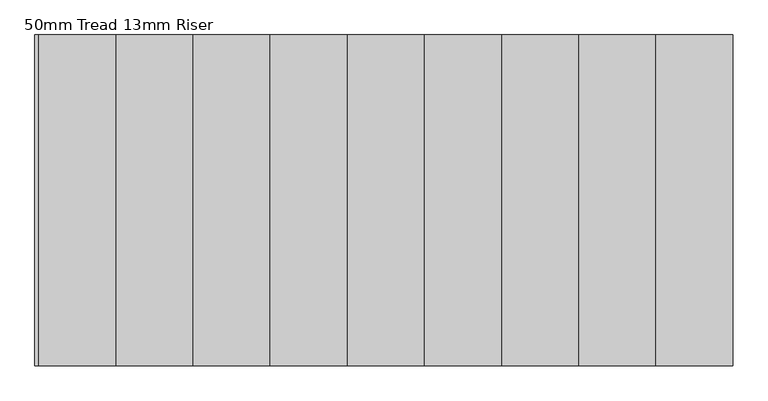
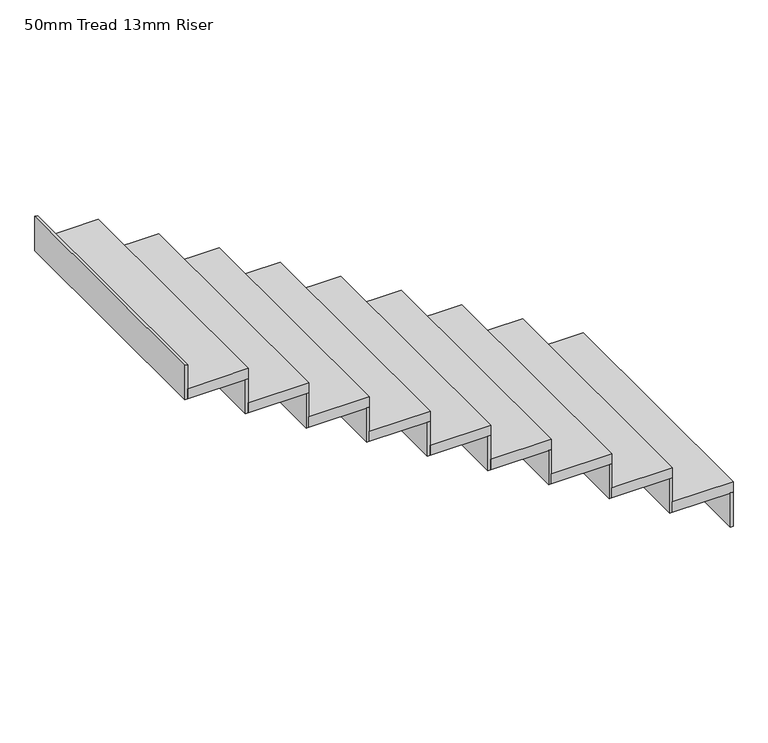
"""IFC4 building model written with IfcOpenShell, lengths in millimetres: stair flight geometry, 50mm Tread 13mm Riser."""

from ifc_helpers import new_model, si_unit, frame, origin, place, context, project, spatial, polyline, outline, extrude, source, transform, mapped, element, save


def stair_flight_50mm_tread_13mm_riser_238aa83a(model_context):
    return source(origin(), model_context, "Body", "SweptSolid", [
        extrude(outline(polyline([(-88611.5398328, 11339.2777512), (-88599.0398328, 11339.2777512), (-88599.0398328, 10139.2777512), (-88611.5398328, 10139.2777512), (-88611.5398328, 11339.2777512)])), frame((0.0, 0.0, 49304.6415784), z_axis=(0.0, 0.0, 1.0), x_axis=(1.0, 0.0, 0.0)), (0.0, 0.0, 1.0), 167.2465025),
        extrude(outline(polyline([(-88879.0398328, 10139.2777512), (-88879.0398328, 11339.2777512), (-88599.0398328, 11339.2777512), (-88599.0398328, 10139.2777512), (-88879.0398328, 10139.2777512)])), frame((0.0, 0.0, 49471.8880809), z_axis=(0.0, 0.0, 1.0), x_axis=(1.0, 0.0, 0.0)), (0.0, 0.0, 1.0), 50.0),
        extrude(outline(polyline([(-88891.5398328, 11339.2777512), (-88879.0398328, 11339.2777512), (-88879.0398328, 10139.2777512), (-88891.5398328, 10139.2777512), (-88891.5398328, 11339.2777512)])), frame((0.0, 0.0, 49471.8880809), z_axis=(0.0, 0.0, 1.0), x_axis=(1.0, 0.0, 0.0)), (0.0, 0.0, 1.0), 167.2465025),
        extrude(outline(polyline([(-89159.0398328, 10139.2777512), (-89159.0398328, 11339.2777512), (-88879.0398328, 11339.2777512), (-88879.0398328, 10139.2777512), (-89159.0398328, 10139.2777512)])), frame((0.0, 0.0, 49639.1345835), z_axis=(0.0, 0.0, 1.0), x_axis=(1.0, 0.0, 0.0)), (0.0, 0.0, 1.0), 50.0),
        extrude(outline(polyline([(-89171.5398328, 11339.2777512), (-89159.0398328, 11339.2777512), (-89159.0398328, 10139.2777512), (-89171.5398328, 10139.2777512), (-89171.5398328, 11339.2777512)])), frame((0.0, 0.0, 49639.1345835), z_axis=(0.0, 0.0, 1.0), x_axis=(1.0, 0.0, 0.0)), (0.0, 0.0, 1.0), 167.2465025),
        extrude(outline(polyline([(-89439.0398328, 10139.2777512), (-89439.0398328, 11339.2777512), (-89159.0398328, 11339.2777512), (-89159.0398328, 10139.2777512), (-89439.0398328, 10139.2777512)])), frame((0.0, 0.0, 49806.381086), z_axis=(0.0, 0.0, 1.0), x_axis=(1.0, 0.0, 0.0)), (0.0, 0.0, 1.0), 50.0),
        extrude(outline(polyline([(-89451.5398328, 11339.2777512), (-89439.0398328, 11339.2777512), (-89439.0398328, 10139.2777512), (-89451.5398328, 10139.2777512), (-89451.5398328, 11339.2777512)])), frame((0.0, 0.0, 49806.381086), z_axis=(0.0, 0.0, 1.0), x_axis=(1.0, 0.0, 0.0)), (0.0, 0.0, 1.0), 167.2465025),
        extrude(outline(polyline([(-89719.0398328, 10139.2777512), (-89719.0398328, 11339.2777512), (-89439.0398328, 11339.2777512), (-89439.0398328, 10139.2777512), (-89719.0398328, 10139.2777512)])), frame((0.0, 0.0, 49973.6275885), z_axis=(0.0, 0.0, 1.0), x_axis=(1.0, 0.0, 0.0)), (0.0, 0.0, 1.0), 50.0),
        extrude(outline(polyline([(-89731.5398328, 11339.2777512), (-89719.0398328, 11339.2777512), (-89719.0398328, 10139.2777512), (-89731.5398328, 10139.2777512), (-89731.5398328, 11339.2777512)])), frame((0.0, 0.0, 49973.6275885), z_axis=(0.0, 0.0, 1.0), x_axis=(1.0, 0.0, 0.0)), (0.0, 0.0, 1.0), 167.2465025),
        extrude(outline(polyline([(-89999.0398328, 10139.2777512), (-89999.0398328, 11339.2777512), (-89719.0398328, 11339.2777512), (-89719.0398328, 10139.2777512), (-89999.0398328, 10139.2777512)])), frame((0.0, 0.0, 50140.874091), z_axis=(0.0, 0.0, 1.0), x_axis=(1.0, 0.0, 0.0)), (0.0, 0.0, 1.0), 50.0),
        extrude(outline(polyline([(-90011.5398328, 11339.2777512), (-89999.0398328, 11339.2777512), (-89999.0398328, 10139.2777512), (-90011.5398328, 10139.2777512), (-90011.5398328, 11339.2777512)])), frame((0.0, 0.0, 50140.874091), z_axis=(0.0, 0.0, 1.0), x_axis=(1.0, 0.0, 0.0)), (0.0, 0.0, 1.0), 167.2465025),
        extrude(outline(polyline([(-90279.0398328, 10139.2777512), (-90279.0398328, 11339.2777512), (-89999.0398328, 11339.2777512), (-89999.0398328, 10139.2777512), (-90279.0398328, 10139.2777512)])), frame((0.0, 0.0, 50308.1205936), z_axis=(0.0, 0.0, 1.0), x_axis=(1.0, 0.0, 0.0)), (0.0, 0.0, 1.0), 50.0),
        extrude(outline(polyline([(-90291.5398328, 11339.2777512), (-90279.0398328, 11339.2777512), (-90279.0398328, 10139.2777512), (-90291.5398328, 10139.2777512), (-90291.5398328, 11339.2777512)])), frame((0.0, 0.0, 50308.1205936), z_axis=(0.0, 0.0, 1.0), x_axis=(1.0, 0.0, 0.0)), (0.0, 0.0, 1.0), 167.2465025),
        extrude(outline(polyline([(-90559.0398328, 10139.2777512), (-90559.0398328, 11339.2777512), (-90279.0398328, 11339.2777512), (-90279.0398328, 10139.2777512), (-90559.0398328, 10139.2777512)])), frame((0.0, 0.0, 50475.3670961), z_axis=(0.0, 0.0, 1.0), x_axis=(1.0, 0.0, 0.0)), (0.0, 0.0, 1.0), 50.0),
        extrude(outline(polyline([(-90571.5398328, 11339.2777512), (-90559.0398328, 11339.2777512), (-90559.0398328, 10139.2777512), (-90571.5398328, 10139.2777512), (-90571.5398328, 11339.2777512)])), frame((0.0, 0.0, 50475.3670961), z_axis=(0.0, 0.0, 1.0), x_axis=(1.0, 0.0, 0.0)), (0.0, 0.0, 1.0), 167.2465025),
        extrude(outline(polyline([(-90839.0398328, 10139.2777512), (-90839.0398328, 11339.2777512), (-90559.0398328, 11339.2777512), (-90559.0398328, 10139.2777512), (-90839.0398328, 10139.2777512)])), frame((0.0, 0.0, 50642.6135986), z_axis=(0.0, 0.0, 1.0), x_axis=(1.0, 0.0, 0.0)), (0.0, 0.0, 1.0), 50.0),
        extrude(outline(polyline([(-90851.5398328, 11339.2777512), (-90839.0398328, 11339.2777512), (-90839.0398328, 10139.2777512), (-90851.5398328, 10139.2777512), (-90851.5398328, 11339.2777512)])), frame((0.0, 0.0, 50642.6135986), z_axis=(0.0, 0.0, 1.0), x_axis=(1.0, 0.0, 0.0)), (0.0, 0.0, 1.0), 167.2465025),
        extrude(outline(polyline([(-91131.5398328, 11339.2777512), (-91119.0398328, 11339.2777512), (-91119.0398328, 10139.2777512), (-91131.5398328, 10139.2777512), (-91131.5398328, 11339.2777512)])), frame((0.0, 0.0, 50809.8601012), z_axis=(0.0, 0.0, 1.0), x_axis=(1.0, 0.0, 0.0)), (0.0, 0.0, 1.0), 167.2465025),
        extrude(outline(polyline([(-91119.0398328, 10139.2777512), (-91119.0398328, 11339.2777512), (-90839.0398328, 11339.2777512), (-90839.0398328, 10139.2777512), (-91119.0398328, 10139.2777512)])), frame((0.0, 0.0, 50809.8601012), z_axis=(0.0, 0.0, 1.0), x_axis=(1.0, 0.0, 0.0)), (0.0, 0.0, 1.0), 50.0),
    ])


if __name__ == "__main__":
    model = new_model("IFC4")
    model_context = context("Model", 3, world=origin())
    ifc_project = project(units=[si_unit("LENGTHUNIT", "METRE", prefix="MILLI")], contexts=[model_context])
    site = spatial("IfcSite", under=ifc_project)
    building = spatial("IfcBuilding", under=site)
    placement = place(None, origin())
    stair_flight_50mm_tread_13mm_riser_shape = stair_flight_50mm_tread_13mm_riser_238aa83a(model_context)
    element("IfcStairFlight", 1, ObjectType="50mm Tread 13mm Riser", at=placement, inside=building, context=model_context, shape_type="MappedRepresentation", body=[
        mapped(stair_flight_50mm_tread_13mm_riser_shape, transform((0.0, 0.0, 0.0), x_axis=(1.0, 0.0, 0.0), y_axis=(0.0, 1.0, 0.0), z_axis=(0.0, 0.0, 1.0))),
    ])
    save(model, "model.ifc")
